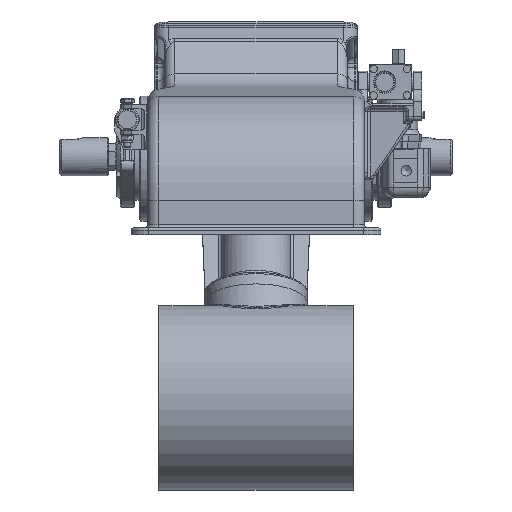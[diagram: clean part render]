
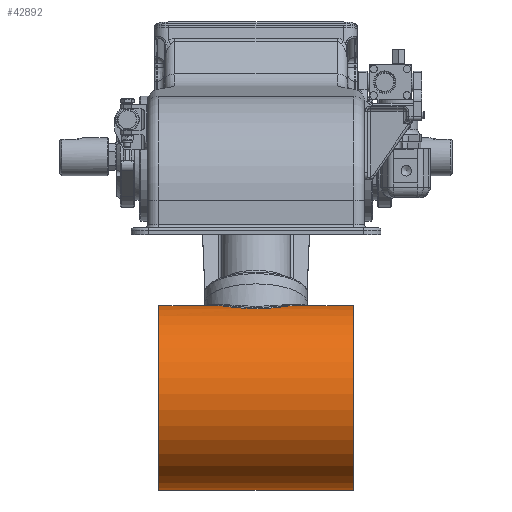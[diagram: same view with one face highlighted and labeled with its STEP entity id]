
A CAD part, front view. The second image highlights one B-rep face of the part: STEP entity #42892.
In plain terms, the highlighted cylindrical face has radius 133 mm (diameter 266 mm), a full revolution.
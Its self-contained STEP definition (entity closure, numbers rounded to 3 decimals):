
#1384=LINE('',#100875,#4348);
#4348=VECTOR('',#51203,133.);
#7101=CYLINDRICAL_SURFACE('',#45643,133.);
#7777=FACE_BOUND('',#11009,.T.);
#8492=FACE_OUTER_BOUND('',#11008,.T.);
#11008=EDGE_LOOP('',(#28710,#28711,#28712,#28713));
#11009=EDGE_LOOP('',(#28714,#28715));
#13679=CIRCLE('',#45644,133.);
#13680=CIRCLE('',#45645,133.);
#15717=B_SPLINE_CURVE_WITH_KNOTS('',3,(#100549,#100550,#100551,#100552,
#100553,#100554,#100555,#100556,#100557,#100558,#100559,#100560,#100561,
#100562,#100563,#100564,#100565,#100566,#100567,#100568,#100569,#100570,
#100571,#100572,#100573,#100574,#100575,#100576,#100577,#100578,#100579,
#100580,#100581,#100582,#100583),.UNSPECIFIED.,.F.,.F.,(4,2,2,2,2,2,2,2,
3,2,2,2,2,2,2,2,4),(37.817,39.387,40.958,
42.528,44.098,45.679,47.26,48.842,
50.423,52.004,53.585,55.166,56.748,
58.318,59.888,61.458,63.028),
 .UNSPECIFIED.);
#15718=B_SPLINE_CURVE_WITH_KNOTS('',3,(#100584,#100585,#100586,#100587,
#100588,#100589,#100590,#100591,#100592,#100593,#100594,#100595,#100596,
#100597,#100598,#100599,#100600,#100601,#100602,#100603,#100604,#100605,
#100606,#100607,#100608,#100609,#100610,#100611,#100612,#100613,#100614,
#100615,#100616,#100617),.UNSPECIFIED.,.F.,.F.,(4,2,2,2,2,2,2,2,2,2,2,2,
2,2,2,2,4),(12.606,14.176,15.746,17.316,
18.887,20.468,22.049,23.63,25.211,
26.793,28.374,29.955,31.536,33.106,
34.677,36.247,37.817),.UNSPECIFIED.);
#17005=VERTEX_POINT('',#100546);
#17006=VERTEX_POINT('',#100548);
#17025=VERTEX_POINT('',#100872);
#17026=VERTEX_POINT('',#100874);
#21365=EDGE_CURVE('',#17006,#17005,#15717,.T.);
#21366=EDGE_CURVE('',#17005,#17006,#15718,.T.);
#21388=EDGE_CURVE('',#17025,#17025,#13679,.T.);
#21389=EDGE_CURVE('',#17025,#17026,#1384,.T.);
#21390=EDGE_CURVE('',#17026,#17026,#13680,.T.);
#28710=ORIENTED_EDGE('',*,*,#21388,.T.);
#28711=ORIENTED_EDGE('',*,*,#21389,.T.);
#28712=ORIENTED_EDGE('',*,*,#21390,.T.);
#28713=ORIENTED_EDGE('',*,*,#21389,.F.);
#28714=ORIENTED_EDGE('',*,*,#21366,.T.);
#28715=ORIENTED_EDGE('',*,*,#21365,.T.);
#42892=ADVANCED_FACE('',(#8492,#7777),#7101,.T.);
#45643=AXIS2_PLACEMENT_3D('',#100871,#51199,#51200);
#45644=AXIS2_PLACEMENT_3D('',#100873,#51201,#51202);
#45645=AXIS2_PLACEMENT_3D('',#100876,#51204,#51205);
#51199=DIRECTION('center_axis',(1.,0.,0.));
#51200=DIRECTION('ref_axis',(0.,0.383,0.924));
#51201=DIRECTION('center_axis',(-1.,0.,0.));
#51202=DIRECTION('ref_axis',(0.,0.383,0.924));
#51203=DIRECTION('',(-1.,0.,0.));
#51204=DIRECTION('center_axis',(1.,0.,0.));
#51205=DIRECTION('ref_axis',(0.,0.383,0.924));
#100546=CARTESIAN_POINT('',(-81.,-156.844,-221.867));
#100548=CARTESIAN_POINT('',(81.,-156.844,-221.867));
#100549=CARTESIAN_POINT('Ctrl Pts',(81.,-156.844,
-221.867));
#100550=CARTESIAN_POINT('Ctrl Pts',(81.,-161.68,
-219.864));
#100551=CARTESIAN_POINT('Ctrl Pts',(80.484,-166.761,
-218.101));
#100552=CARTESIAN_POINT('Ctrl Pts',(78.364,-177.037,
-215.226));
#100553=CARTESIAN_POINT('Ctrl Pts',(76.759,-182.231,
-214.112));
#100554=CARTESIAN_POINT('Ctrl Pts',(72.578,-192.342,
-212.538));
#100555=CARTESIAN_POINT('Ctrl Pts',(69.998,-197.27,
-212.075));
#100556=CARTESIAN_POINT('Ctrl Pts',(64.101,-206.519,
-211.668));
#100557=CARTESIAN_POINT('Ctrl Pts',(60.782,-210.841,
-211.722));
#100558=CARTESIAN_POINT('Ctrl Pts',(53.744,-218.628,
-212.132));
#100559=CARTESIAN_POINT('Ctrl Pts',(49.76,-222.38,
-212.507));
#100560=CARTESIAN_POINT('Ctrl Pts',(41.062,-229.136,-213.431));
#100561=CARTESIAN_POINT('Ctrl Pts',(36.348,-232.142,
-213.976));
#100562=CARTESIAN_POINT('Ctrl Pts',(26.44,-237.072,
-214.993));
#100563=CARTESIAN_POINT('Ctrl Pts',(21.234,-239.,-215.462));
#100564=CARTESIAN_POINT('Ctrl Pts',(10.65,-241.568,-216.11));
#100565=CARTESIAN_POINT('Ctrl Pts',(5.271,-242.206,
-216.286));
#100566=CARTESIAN_POINT('Ctrl Pts',(0.,-242.206,
-216.286));
#100567=CARTESIAN_POINT('Ctrl Pts',(-5.271,-242.206,
-216.286));
#100568=CARTESIAN_POINT('Ctrl Pts',(-10.65,-241.568,
-216.11));
#100569=CARTESIAN_POINT('Ctrl Pts',(-21.234,-239.,
-215.462));
#100570=CARTESIAN_POINT('Ctrl Pts',(-26.44,-237.072,
-214.993));
#100571=CARTESIAN_POINT('Ctrl Pts',(-36.348,-232.142,
-213.976));
#100572=CARTESIAN_POINT('Ctrl Pts',(-41.062,-229.136,
-213.431));
#100573=CARTESIAN_POINT('Ctrl Pts',(-49.76,-222.38,
-212.507));
#100574=CARTESIAN_POINT('Ctrl Pts',(-53.744,-218.628,
-212.132));
#100575=CARTESIAN_POINT('Ctrl Pts',(-60.782,-210.841,
-211.722));
#100576=CARTESIAN_POINT('Ctrl Pts',(-64.101,-206.519,
-211.668));
#100577=CARTESIAN_POINT('Ctrl Pts',(-69.998,-197.27,
-212.075));
#100578=CARTESIAN_POINT('Ctrl Pts',(-72.578,-192.342,
-212.538));
#100579=CARTESIAN_POINT('Ctrl Pts',(-76.759,-182.231,
-214.112));
#100580=CARTESIAN_POINT('Ctrl Pts',(-78.364,-177.037,
-215.226));
#100581=CARTESIAN_POINT('Ctrl Pts',(-80.484,-166.761,
-218.101));
#100582=CARTESIAN_POINT('Ctrl Pts',(-81.,-161.68,
-219.864));
#100583=CARTESIAN_POINT('Ctrl Pts',(-81.,-156.844,
-221.867));
#100584=CARTESIAN_POINT('Ctrl Pts',(-81.,-156.844,
-221.867));
#100585=CARTESIAN_POINT('Ctrl Pts',(-81.,-152.008,
-223.87));
#100586=CARTESIAN_POINT('Ctrl Pts',(-80.484,-147.169,
-226.217));
#100587=CARTESIAN_POINT('Ctrl Pts',(-78.364,-137.869,
-231.449));
#100588=CARTESIAN_POINT('Ctrl Pts',(-76.759,-133.409,
-234.335));
#100589=CARTESIAN_POINT('Ctrl Pts',(-72.578,-125.146,
-240.372));
#100590=CARTESIAN_POINT('Ctrl Pts',(-69.998,-121.334,
-243.529));
#100591=CARTESIAN_POINT('Ctrl Pts',(-64.101,-114.506,
-249.781));
#100592=CARTESIAN_POINT('Ctrl Pts',(-60.782,-111.489,
-252.875));
#100593=CARTESIAN_POINT('Ctrl Pts',(-53.744,-106.272,
-258.671));
#100594=CARTESIAN_POINT('Ctrl Pts',(-49.76,-103.885,
-261.59));
#100595=CARTESIAN_POINT('Ctrl Pts',(-41.062,-99.76,
-267.02));
#100596=CARTESIAN_POINT('Ctrl Pts',(-36.348,-98.021,
-269.531));
#100597=CARTESIAN_POINT('Ctrl Pts',(-26.44,-95.253,
-273.736));
#100598=CARTESIAN_POINT('Ctrl Pts',(-21.234,-94.222,
-275.431));
#100599=CARTESIAN_POINT('Ctrl Pts',(-10.65,-92.864,
-277.705));
#100600=CARTESIAN_POINT('Ctrl Pts',(-5.271,-92.538,
-278.281));
#100601=CARTESIAN_POINT('Ctrl Pts',(5.271,-92.538,-278.281));
#100602=CARTESIAN_POINT('Ctrl Pts',(10.65,-92.864,
-277.705));
#100603=CARTESIAN_POINT('Ctrl Pts',(21.234,-94.222,
-275.431));
#100604=CARTESIAN_POINT('Ctrl Pts',(26.44,-95.253,
-273.736));
#100605=CARTESIAN_POINT('Ctrl Pts',(36.348,-98.021,
-269.531));
#100606=CARTESIAN_POINT('Ctrl Pts',(41.062,-99.76,-267.02));
#100607=CARTESIAN_POINT('Ctrl Pts',(49.76,-103.885,
-261.59));
#100608=CARTESIAN_POINT('Ctrl Pts',(53.744,-106.272,
-258.671));
#100609=CARTESIAN_POINT('Ctrl Pts',(60.782,-111.489,
-252.875));
#100610=CARTESIAN_POINT('Ctrl Pts',(64.101,-114.506,
-249.781));
#100611=CARTESIAN_POINT('Ctrl Pts',(69.998,-121.334,
-243.529));
#100612=CARTESIAN_POINT('Ctrl Pts',(72.578,-125.146,
-240.372));
#100613=CARTESIAN_POINT('Ctrl Pts',(76.759,-133.409,-234.335));
#100614=CARTESIAN_POINT('Ctrl Pts',(78.364,-137.869,
-231.449));
#100615=CARTESIAN_POINT('Ctrl Pts',(80.484,-147.169,
-226.217));
#100616=CARTESIAN_POINT('Ctrl Pts',(81.,-152.008,
-223.87));
#100617=CARTESIAN_POINT('Ctrl Pts',(81.,-156.844,
-221.867));
#100871=CARTESIAN_POINT('Origin',(0.,-207.741,
-344.743));
#100872=CARTESIAN_POINT('',(140.,-258.638,-467.619));
#100873=CARTESIAN_POINT('Origin',(140.,-207.741,-344.743));
#100874=CARTESIAN_POINT('',(-140.,-258.638,-467.619));
#100875=CARTESIAN_POINT('',(0.,-258.638,-467.619));
#100876=CARTESIAN_POINT('Origin',(-140.,-207.741,-344.743));
